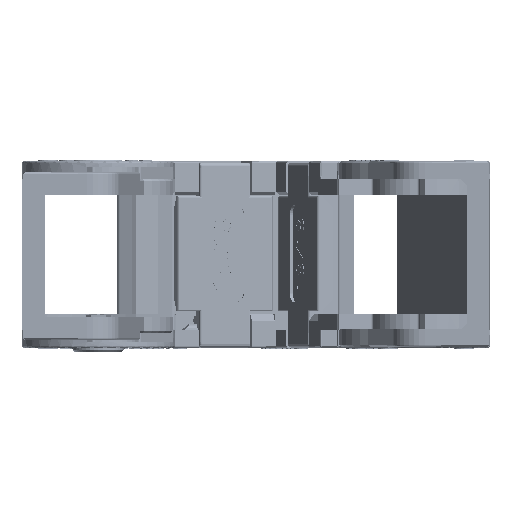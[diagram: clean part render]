
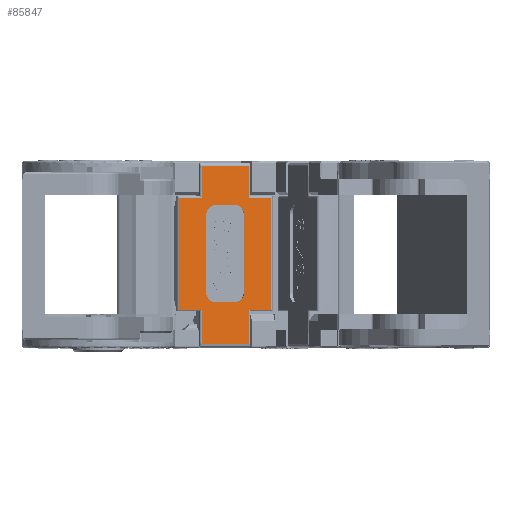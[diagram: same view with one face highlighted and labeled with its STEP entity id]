
A CAD part, left-side view. The second image highlights one B-rep face of the part: STEP entity #85847.
In plain terms, the highlighted planar face has unit normal (-0.978, -0.209, 0).
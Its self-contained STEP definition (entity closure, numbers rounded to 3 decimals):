
#18765=PLANE('',#282932);
#21427=FACE_BOUND('',#116683,.T.);
#21428=FACE_BOUND('',#116684,.T.);
#45734=LINE('',#570511,#70174);
#45735=LINE('',#570516,#70175);
#45736=LINE('',#570520,#70176);
#45737=LINE('',#570524,#70177);
#45738=LINE('',#570527,#70178);
#45739=LINE('',#570530,#70179);
#45740=LINE('',#570532,#70180);
#45741=LINE('',#570534,#70181);
#45742=LINE('',#570536,#70182);
#45743=LINE('',#570538,#70183);
#45744=LINE('',#570540,#70184);
#45745=LINE('',#570542,#70185);
#45746=LINE('',#570544,#70186);
#45747=LINE('',#570546,#70187);
#45748=LINE('',#570548,#70188);
#45749=LINE('',#570550,#70189);
#70174=VECTOR('',#339708,1.);
#70175=VECTOR('',#339711,1.);
#70176=VECTOR('',#339714,1.);
#70177=VECTOR('',#339717,1.);
#70178=VECTOR('',#339720,1.);
#70179=VECTOR('',#339721,1.);
#70180=VECTOR('',#339722,1.);
#70181=VECTOR('',#339723,1.);
#70182=VECTOR('',#339724,1.);
#70183=VECTOR('',#339725,1.);
#70184=VECTOR('',#339726,1.);
#70185=VECTOR('',#339727,1.);
#70186=VECTOR('',#339728,1.);
#70187=VECTOR('',#339729,1.);
#70188=VECTOR('',#339730,1.);
#70189=VECTOR('',#339731,1.);
#85847=ADVANCED_FACE('',(#21427,#21428),#18765,.T.);
#116683=EDGE_LOOP('',(#187180,#187181,#187182,#187183,#187184,#187185,#187186,
#187187));
#116684=EDGE_LOOP('',(#187188,#187189,#187190,#187191,#187192,#187193,#187194,
#187195,#187196,#187197,#187198,#187199));
#187180=ORIENTED_EDGE('',*,*,#255249,.F.);
#187181=ORIENTED_EDGE('',*,*,#255250,.F.);
#187182=ORIENTED_EDGE('',*,*,#255251,.F.);
#187183=ORIENTED_EDGE('',*,*,#255252,.F.);
#187184=ORIENTED_EDGE('',*,*,#255253,.F.);
#187185=ORIENTED_EDGE('',*,*,#255254,.F.);
#187186=ORIENTED_EDGE('',*,*,#255255,.F.);
#187187=ORIENTED_EDGE('',*,*,#255256,.F.);
#187188=ORIENTED_EDGE('',*,*,#255257,.T.);
#187189=ORIENTED_EDGE('',*,*,#255258,.T.);
#187190=ORIENTED_EDGE('',*,*,#255259,.F.);
#187191=ORIENTED_EDGE('',*,*,#255260,.T.);
#187192=ORIENTED_EDGE('',*,*,#255261,.T.);
#187193=ORIENTED_EDGE('',*,*,#255262,.T.);
#187194=ORIENTED_EDGE('',*,*,#255263,.T.);
#187195=ORIENTED_EDGE('',*,*,#255264,.T.);
#187196=ORIENTED_EDGE('',*,*,#255265,.T.);
#187197=ORIENTED_EDGE('',*,*,#255266,.T.);
#187198=ORIENTED_EDGE('',*,*,#255267,.T.);
#187199=ORIENTED_EDGE('',*,*,#255268,.T.);
#218154=VERTEX_POINT('',#570512);
#218155=VERTEX_POINT('',#570513);
#218156=VERTEX_POINT('',#570515);
#218157=VERTEX_POINT('',#570517);
#218158=VERTEX_POINT('',#570519);
#218159=VERTEX_POINT('',#570521);
#218160=VERTEX_POINT('',#570523);
#218161=VERTEX_POINT('',#570525);
#218162=VERTEX_POINT('',#570528);
#218163=VERTEX_POINT('',#570529);
#218164=VERTEX_POINT('',#570531);
#218165=VERTEX_POINT('',#570533);
#218166=VERTEX_POINT('',#570535);
#218167=VERTEX_POINT('',#570537);
#218168=VERTEX_POINT('',#570539);
#218169=VERTEX_POINT('',#570541);
#218170=VERTEX_POINT('',#570543);
#218171=VERTEX_POINT('',#570545);
#218172=VERTEX_POINT('',#570547);
#218173=VERTEX_POINT('',#570549);
#255249=EDGE_CURVE('',#218154,#218155,#45734,.T.);
#255250=EDGE_CURVE('',#218156,#218154,#265730,.T.);
#255251=EDGE_CURVE('',#218157,#218156,#45735,.T.);
#255252=EDGE_CURVE('',#218158,#218157,#265731,.T.);
#255253=EDGE_CURVE('',#218159,#218158,#45736,.T.);
#255254=EDGE_CURVE('',#218160,#218159,#265732,.T.);
#255255=EDGE_CURVE('',#218161,#218160,#45737,.T.);
#255256=EDGE_CURVE('',#218155,#218161,#265733,.T.);
#255257=EDGE_CURVE('',#218162,#218163,#45738,.T.);
#255258=EDGE_CURVE('',#218163,#218164,#45739,.T.);
#255259=EDGE_CURVE('',#218165,#218164,#45740,.T.);
#255260=EDGE_CURVE('',#218165,#218166,#45741,.T.);
#255261=EDGE_CURVE('',#218166,#218167,#45742,.T.);
#255262=EDGE_CURVE('',#218167,#218168,#45743,.T.);
#255263=EDGE_CURVE('',#218168,#218169,#45744,.T.);
#255264=EDGE_CURVE('',#218169,#218170,#45745,.T.);
#255265=EDGE_CURVE('',#218170,#218171,#45746,.T.);
#255266=EDGE_CURVE('',#218171,#218172,#45747,.T.);
#255267=EDGE_CURVE('',#218172,#218173,#45748,.T.);
#255268=EDGE_CURVE('',#218173,#218162,#45749,.T.);
#265730=CIRCLE('',#282928,1.611);
#265731=CIRCLE('',#282929,1.511);
#265732=CIRCLE('',#282930,1.511);
#265733=CIRCLE('',#282931,1.511);
#282928=AXIS2_PLACEMENT_3D('',#570514,#339709,#339710);
#282929=AXIS2_PLACEMENT_3D('',#570518,#339712,#339713);
#282930=AXIS2_PLACEMENT_3D('',#570522,#339715,#339716);
#282931=AXIS2_PLACEMENT_3D('',#570526,#339718,#339719);
#282932=AXIS2_PLACEMENT_3D('',#570551,#339732,#339733);
#339708=DIRECTION('',(0.,0.,-1.));
#339709=DIRECTION('',(-0.978,-0.209,0.));
#339710=DIRECTION('',(0.,0.,-1.));
#339711=DIRECTION('',(-0.209,0.978,0.));
#339712=DIRECTION('',(-0.978,-0.209,0.));
#339713=DIRECTION('',(0.,0.,-1.));
#339714=DIRECTION('',(0.,0.,1.));
#339715=DIRECTION('',(-0.978,-0.209,0.));
#339716=DIRECTION('',(0.,0.,-1.));
#339717=DIRECTION('',(0.209,-0.978,0.));
#339718=DIRECTION('',(-0.978,-0.209,0.));
#339719=DIRECTION('',(0.,0.,-1.));
#339720=DIRECTION('',(-0.209,0.978,0.));
#339721=DIRECTION('',(0.,0.,1.));
#339722=DIRECTION('',(0.209,-0.978,0.));
#339723=DIRECTION('',(0.,0.,-1.));
#339724=DIRECTION('',(-0.209,0.978,0.));
#339725=DIRECTION('',(0.,0.,-1.));
#339726=DIRECTION('',(0.209,-0.978,0.));
#339727=DIRECTION('',(0.,0.,-1.));
#339728=DIRECTION('',(0.209,-0.978,0.));
#339729=DIRECTION('',(0.,0.,1.));
#339730=DIRECTION('',(0.209,-0.978,0.));
#339731=DIRECTION('',(0.,0.,1.));
#339732=DIRECTION('',(-0.978,-0.209,0.));
#339733=DIRECTION('',(0.,0.,1.));
#570511=CARTESIAN_POINT('',(26.755,-16.706,11.47));
#570512=CARTESIAN_POINT('',(26.755,-16.706,-3.127));
#570513=CARTESIAN_POINT('',(26.755,-16.706,-15.11));
#570514=CARTESIAN_POINT('',(27.092,-18.281,-3.127));
#570515=CARTESIAN_POINT('',(27.092,-18.281,-1.515));
#570516=CARTESIAN_POINT('',(17.429,26.854,-1.515));
#570517=CARTESIAN_POINT('',(27.703,-21.137,-1.515));
#570518=CARTESIAN_POINT('',(27.703,-21.137,-3.026));
#570519=CARTESIAN_POINT('',(28.019,-22.614,-3.026));
#570520=CARTESIAN_POINT('',(28.019,-22.614,11.47));
#570521=CARTESIAN_POINT('',(28.019,-22.614,-15.11));
#570522=CARTESIAN_POINT('',(27.703,-21.137,-15.11));
#570523=CARTESIAN_POINT('',(27.703,-21.137,-16.62));
#570524=CARTESIAN_POINT('',(17.429,26.854,-16.62));
#570525=CARTESIAN_POINT('',(27.071,-18.183,-16.62));
#570526=CARTESIAN_POINT('',(27.071,-18.183,-15.11));
#570527=CARTESIAN_POINT('',(17.429,26.854,-0.393));
#570528=CARTESIAN_POINT('',(28.905,-26.751,-0.393));
#570529=CARTESIAN_POINT('',(28.173,-23.333,-0.393));
#570530=CARTESIAN_POINT('',(28.173,-23.333,7.97));
#570531=CARTESIAN_POINT('',(28.173,-23.333,4.47));
#570532=CARTESIAN_POINT('',(17.429,26.854,4.47));
#570533=CARTESIAN_POINT('',(26.601,-15.987,4.47));
#570534=CARTESIAN_POINT('',(26.601,-15.987,7.97));
#570535=CARTESIAN_POINT('',(26.601,-15.987,-0.393));
#570536=CARTESIAN_POINT('',(17.429,26.854,-0.393));
#570537=CARTESIAN_POINT('',(25.869,-12.568,-0.393));
#570538=CARTESIAN_POINT('',(25.869,-12.568,7.97));
#570539=CARTESIAN_POINT('',(25.869,-12.568,-17.742));
#570540=CARTESIAN_POINT('',(17.429,26.854,-17.742));
#570541=CARTESIAN_POINT('',(26.601,-15.987,-17.742));
#570542=CARTESIAN_POINT('',(26.601,-15.987,11.47));
#570543=CARTESIAN_POINT('',(26.601,-15.987,-23.116));
#570544=CARTESIAN_POINT('',(17.429,26.854,-23.116));
#570545=CARTESIAN_POINT('',(28.173,-23.333,-23.116));
#570546=CARTESIAN_POINT('',(28.173,-23.333,11.47));
#570547=CARTESIAN_POINT('',(28.173,-23.333,-17.742));
#570548=CARTESIAN_POINT('',(17.429,26.854,-17.742));
#570549=CARTESIAN_POINT('',(28.905,-26.751,-17.742));
#570550=CARTESIAN_POINT('',(28.905,-26.751,7.97));
#570551=CARTESIAN_POINT('',(17.429,26.854,7.97));
